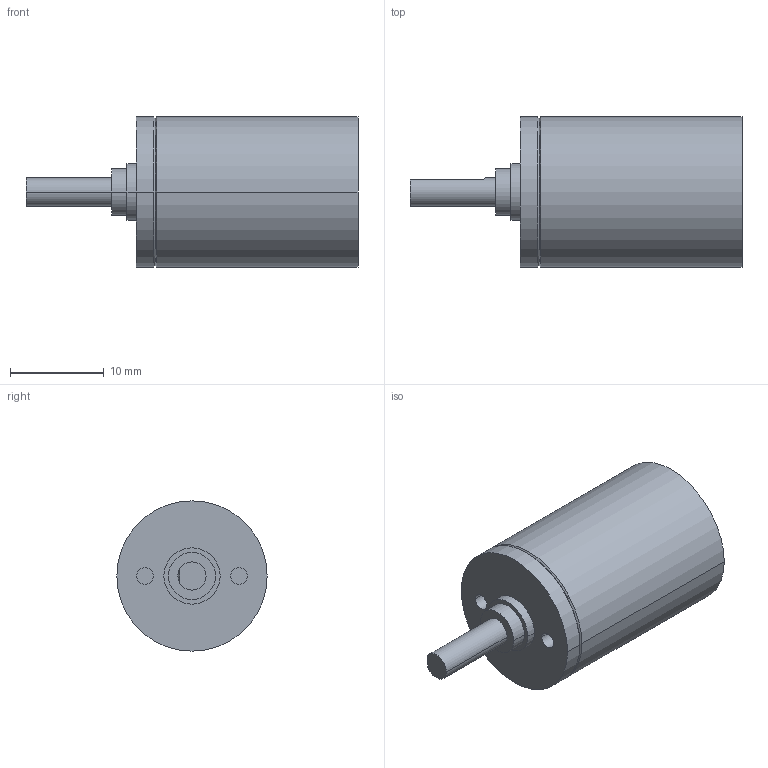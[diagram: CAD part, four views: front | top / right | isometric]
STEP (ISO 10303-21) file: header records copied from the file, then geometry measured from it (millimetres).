
FILE_DESCRIPTION((''),'2;1');
FILE_NAME('1681860','2016-10-04T',('mmagvisi'),(''),'CREO PARAMETRIC BY PTC INC, 2016050','CREO PARAMETRIC BY PTC INC, 2016050','');
FILE_SCHEMA(('CONFIG_CONTROL_DESIGN'));
Length unit declared in the file: millimetre
Products named in the file (1): 1681860
Bounding box: 35.35 x 16 x 16 mm (x, y, z)
Volume: 4644.6 mm3; surface area: 1816.2 mm2
Topology: 1 solids, 1 shells, 30 faces, 60 edges, 38 vertices
Faces by surface type: cylinder 16, plane 10, cone 4
Entity records: 895 total; most frequent: DIRECTION 152, CARTESIAN_POINT 133, ORIENTED_EDGE 120, AXIS2_PLACEMENT_3D 64, EDGE_CURVE 60, COLOUR_RGB 58, VERTEX_POINT 38, EDGE_LOOP 36
